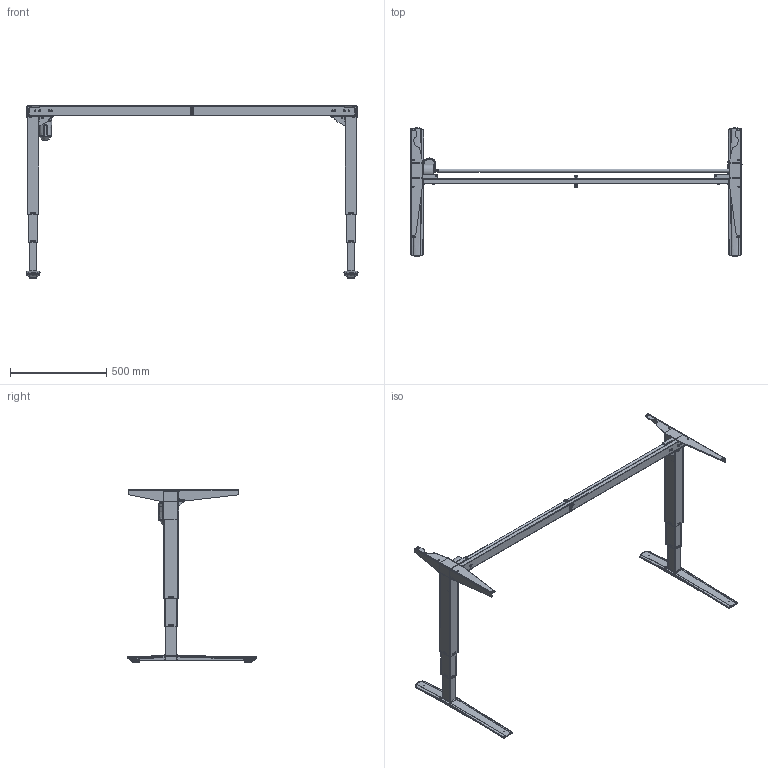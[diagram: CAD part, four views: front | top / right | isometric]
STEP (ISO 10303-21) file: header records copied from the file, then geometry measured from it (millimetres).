
FILE_DESCRIPTION (( 'STEP AP203' ), '1' );
FILE_NAME ('Tech-draw_501-43_XX172.STEP', '2019-09-25T11:17:35', ( '' ), ( '' ), 'SwSTEP 2.0', 'SolidWorks 2018', '' );
FILE_SCHEMA (( 'CONFIG_CONTROL_DESIGN' ));
Length unit declared in the file: millimetre
Products named in the file (35): 134500_silver1; Tech-draw_501-43_XX172; 148880_501-43 XS172; 344550; 345200; 340520_shell view; 344560; 340760; 341210; 341220; 340970; 141110_silver1; 144260_172; 141080_silver; 348720_shell view; 340560; 324520_silver; 141100_silver1; 341800_silver; 347920_172; 345190_shell view; 352610; 344430_silver; 141090_silver; 141070_silver; 134530_silver1; 332570; 340540_shell view; 340450_shell view; 141060_silver; 340440; 340460_shell view; 347910_172; 134470_silver1; 340510_shell view
Assembly tree (62 placements, depth 6):
  Tech-draw_501-43_XX172
    148880_501-43 XS172
      347910_172
      144260_172
        347920_172
        340560
        341220
      141070_silver
        134500_silver1
          340440
          340520_shell view
          348720_shell view
          344550
        141090_silver
          141110_silver1
            340460_shell view
            345190_shell view
            345200
          134530_silver1
            340450_shell view
          341800_silver  x4
        341800_silver  x4
        344430_silver
        324520_silver  x2
        352610
      141060_silver
        134470_silver1
          340970
          340510_shell view
          340540_shell view
          344560
        141080_silver
          141100_silver1
            340460_shell view
            345190_shell view
            345200
          134530_silver1
            340450_shell view
          341800_silver  x4
        341800_silver  x4
        324520_silver  x2
      340760  x4
      332570  x4
      341210
Bounding box: 1727 x 668.35 x 895.2 mm (x, y, z)
Volume: 2757751.3 mm3; surface area: 2991448.6 mm2
Topology: 51 solids, 51 shells, 3374 faces, 8772 edges, 5557 vertices
Faces by surface type: plane 1799, cylinder 985, bspline 454, cone 77, torus 59
Full cylindrical faces by diameter (mm): 2.8 x4, 3 x2, 4.6 x4, 5 x4, 6 x10, 6.1 x2, 7 x8, 7.4 x4, 7.6 x4, 8 x13, 8.05 x4, 10 x8, 11.9 x2, 12 x1, 13 x2, 15 x4, 16 x2, 18 x1, 20 x1, 37.6 x8, 60 x1
Entity records: 101376 total; most frequent: CARTESIAN_POINT 52617, ORIENTED_EDGE 9722, DIRECTION 8543, EDGE_CURVE 4861, VERTEX_POINT 3159, AXIS2_PLACEMENT_3D 3093, LINE 2357, VECTOR 2357
